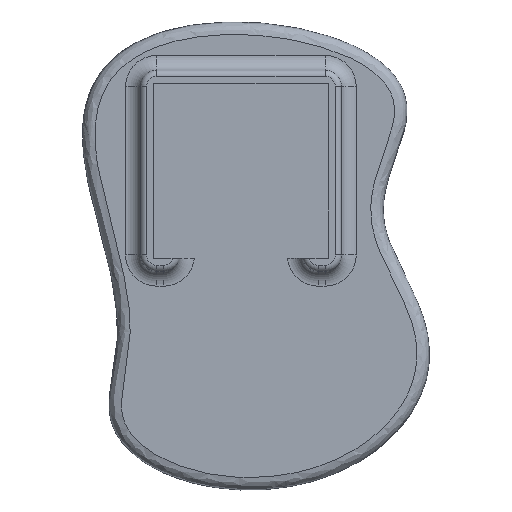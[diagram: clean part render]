
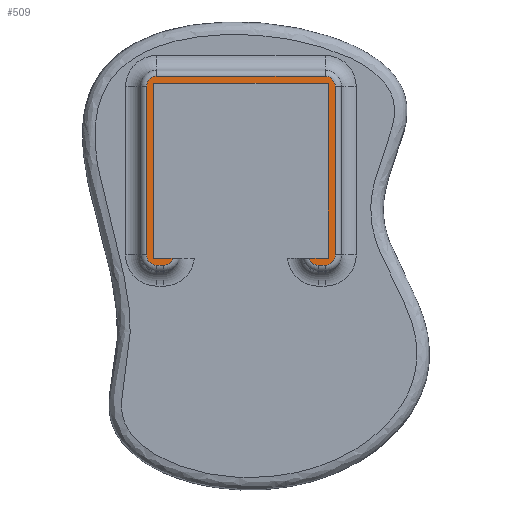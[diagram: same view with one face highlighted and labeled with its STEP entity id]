
A CAD part, top view. The second image highlights one B-rep face of the part: STEP entity #509.
In plain terms, the highlighted planar face has unit normal (0, 0, 1).
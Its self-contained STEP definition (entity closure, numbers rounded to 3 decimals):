
#40=PLANE('',#582);
#59=LINE('',#1446,#89);
#61=LINE('',#1458,#91);
#63=LINE('',#1470,#93);
#65=LINE('',#1482,#95);
#67=LINE('',#1494,#97);
#68=LINE('',#1512,#98);
#70=LINE('',#1532,#100);
#71=LINE('',#1534,#101);
#72=LINE('',#1536,#102);
#73=LINE('',#1537,#103);
#89=VECTOR('',#651,10.);
#91=VECTOR('',#665,10.);
#93=VECTOR('',#679,10.);
#95=VECTOR('',#693,10.);
#97=VECTOR('',#707,10.);
#98=VECTOR('',#716,10.);
#100=VECTOR('',#720,10.);
#101=VECTOR('',#721,10.);
#102=VECTOR('',#722,10.);
#103=VECTOR('',#723,10.);
#123=FACE_OUTER_BOUND('',#156,.T.);
#156=EDGE_LOOP('',(#415,#416,#417,#418,#419,#420,#421,#422,#423,#424,#425,
#426,#427,#428,#429,#430));
#186=CIRCLE('',#549,3.292);
#192=CIRCLE('',#557,3.292);
#196=CIRCLE('',#563,3.292);
#200=CIRCLE('',#569,3.292);
#204=CIRCLE('',#575,3.292);
#207=CIRCLE('',#580,3.292);
#238=VERTEX_POINT('',#1425);
#239=VERTEX_POINT('',#1436);
#241=VERTEX_POINT('',#1442);
#243=VERTEX_POINT('',#1448);
#245=VERTEX_POINT('',#1454);
#247=VERTEX_POINT('',#1460);
#249=VERTEX_POINT('',#1466);
#251=VERTEX_POINT('',#1472);
#253=VERTEX_POINT('',#1478);
#255=VERTEX_POINT('',#1484);
#257=VERTEX_POINT('',#1490);
#259=VERTEX_POINT('',#1496);
#261=VERTEX_POINT('',#1511);
#262=VERTEX_POINT('',#1531);
#263=VERTEX_POINT('',#1533);
#264=VERTEX_POINT('',#1535);
#287=EDGE_CURVE('',#238,#239,#186,.T.);
#292=EDGE_CURVE('',#239,#241,#59,.T.);
#295=EDGE_CURVE('',#241,#243,#192,.T.);
#298=EDGE_CURVE('',#243,#245,#61,.T.);
#301=EDGE_CURVE('',#245,#247,#196,.T.);
#304=EDGE_CURVE('',#247,#249,#63,.T.);
#307=EDGE_CURVE('',#249,#251,#200,.T.);
#310=EDGE_CURVE('',#251,#253,#65,.T.);
#313=EDGE_CURVE('',#253,#255,#204,.T.);
#316=EDGE_CURVE('',#255,#257,#67,.T.);
#319=EDGE_CURVE('',#257,#259,#207,.T.);
#320=EDGE_CURVE('',#261,#259,#68,.T.);
#323=EDGE_CURVE('',#238,#262,#70,.T.);
#324=EDGE_CURVE('',#262,#263,#71,.T.);
#325=EDGE_CURVE('',#263,#264,#72,.T.);
#326=EDGE_CURVE('',#264,#261,#73,.T.);
#415=ORIENTED_EDGE('',*,*,#319,.F.);
#416=ORIENTED_EDGE('',*,*,#316,.F.);
#417=ORIENTED_EDGE('',*,*,#313,.F.);
#418=ORIENTED_EDGE('',*,*,#310,.F.);
#419=ORIENTED_EDGE('',*,*,#307,.F.);
#420=ORIENTED_EDGE('',*,*,#304,.F.);
#421=ORIENTED_EDGE('',*,*,#301,.F.);
#422=ORIENTED_EDGE('',*,*,#298,.F.);
#423=ORIENTED_EDGE('',*,*,#295,.F.);
#424=ORIENTED_EDGE('',*,*,#292,.F.);
#425=ORIENTED_EDGE('',*,*,#287,.F.);
#426=ORIENTED_EDGE('',*,*,#323,.T.);
#427=ORIENTED_EDGE('',*,*,#324,.T.);
#428=ORIENTED_EDGE('',*,*,#325,.T.);
#429=ORIENTED_EDGE('',*,*,#326,.T.);
#430=ORIENTED_EDGE('',*,*,#320,.T.);
#509=ADVANCED_FACE('',(#123),#40,.T.);
#549=AXIS2_PLACEMENT_3D('',#1437,#640,#641);
#557=AXIS2_PLACEMENT_3D('',#1452,#658,#659);
#563=AXIS2_PLACEMENT_3D('',#1464,#672,#673);
#569=AXIS2_PLACEMENT_3D('',#1476,#686,#687);
#575=AXIS2_PLACEMENT_3D('',#1488,#700,#701);
#580=AXIS2_PLACEMENT_3D('',#1509,#712,#713);
#582=AXIS2_PLACEMENT_3D('',#1530,#718,#719);
#640=DIRECTION('center_axis',(0.,0.,-1.));
#641=DIRECTION('ref_axis',(0.628,-0.778,0.));
#651=DIRECTION('',(-1.,0.,0.));
#658=DIRECTION('center_axis',(0.,0.,-1.));
#659=DIRECTION('ref_axis',(-0.707,-0.707,0.));
#665=DIRECTION('',(0.,1.,0.));
#672=DIRECTION('center_axis',(0.,0.,-1.));
#673=DIRECTION('ref_axis',(-0.707,0.707,0.));
#679=DIRECTION('',(1.,0.,0.));
#686=DIRECTION('center_axis',(0.,0.,-1.));
#687=DIRECTION('ref_axis',(0.707,0.707,0.));
#693=DIRECTION('',(0.,-1.,0.));
#700=DIRECTION('center_axis',(0.,0.,-1.));
#701=DIRECTION('ref_axis',(0.707,-0.707,0.));
#707=DIRECTION('',(-1.,0.,0.));
#712=DIRECTION('center_axis',(0.,0.,-1.));
#713=DIRECTION('ref_axis',(-0.628,-0.778,0.));
#716=DIRECTION('',(-1.,0.,0.));
#718=DIRECTION('center_axis',(0.,0.,1.));
#719=DIRECTION('ref_axis',(1.,0.,0.));
#720=DIRECTION('',(-1.,0.,0.));
#721=DIRECTION('',(0.,1.,0.));
#722=DIRECTION('',(1.,0.,0.));
#723=DIRECTION('',(0.,-1.,0.));
#1425=CARTESIAN_POINT('',(-21.769,3.95,11.));
#1436=CARTESIAN_POINT('',(-24.889,1.708,11.));
#1437=CARTESIAN_POINT('Origin',(-24.889,5.,11.));
#1442=CARTESIAN_POINT('',(-27.,1.708,11.));
#1446=CARTESIAN_POINT('',(-13.519,1.708,11.));
#1448=CARTESIAN_POINT('',(-30.292,5.,11.));
#1452=CARTESIAN_POINT('Origin',(-27.,5.,11.));
#1454=CARTESIAN_POINT('',(-30.292,59.,11.));
#1458=CARTESIAN_POINT('',(-30.292,34.353,11.));
#1460=CARTESIAN_POINT('',(-27.,62.292,11.));
#1464=CARTESIAN_POINT('Origin',(-27.,59.,11.));
#1466=CARTESIAN_POINT('',(27.,62.292,11.));
#1470=CARTESIAN_POINT('',(18.481,62.292,11.));
#1472=CARTESIAN_POINT('',(30.292,59.,11.));
#1476=CARTESIAN_POINT('Origin',(27.,59.,11.));
#1478=CARTESIAN_POINT('',(30.292,5.,11.));
#1482=CARTESIAN_POINT('',(30.292,2.353,11.));
#1484=CARTESIAN_POINT('',(27.,1.708,11.));
#1488=CARTESIAN_POINT('Origin',(27.,5.,11.));
#1490=CARTESIAN_POINT('',(24.889,1.708,11.));
#1494=CARTESIAN_POINT('',(-13.519,1.708,11.));
#1496=CARTESIAN_POINT('',(21.769,3.95,11.));
#1509=CARTESIAN_POINT('Origin',(24.889,5.,11.));
#1511=CARTESIAN_POINT('',(28.05,3.95,11.));
#1512=CARTESIAN_POINT('',(-28.05,3.95,11.));
#1530=CARTESIAN_POINT('Origin',(0.,32.,11.));
#1531=CARTESIAN_POINT('',(-28.05,3.95,11.));
#1532=CARTESIAN_POINT('',(-28.05,3.95,11.));
#1533=CARTESIAN_POINT('',(-28.05,60.05,11.));
#1534=CARTESIAN_POINT('',(-28.05,60.05,11.));
#1535=CARTESIAN_POINT('',(28.05,60.05,11.));
#1536=CARTESIAN_POINT('',(28.05,60.05,11.));
#1537=CARTESIAN_POINT('',(28.05,3.95,11.));
